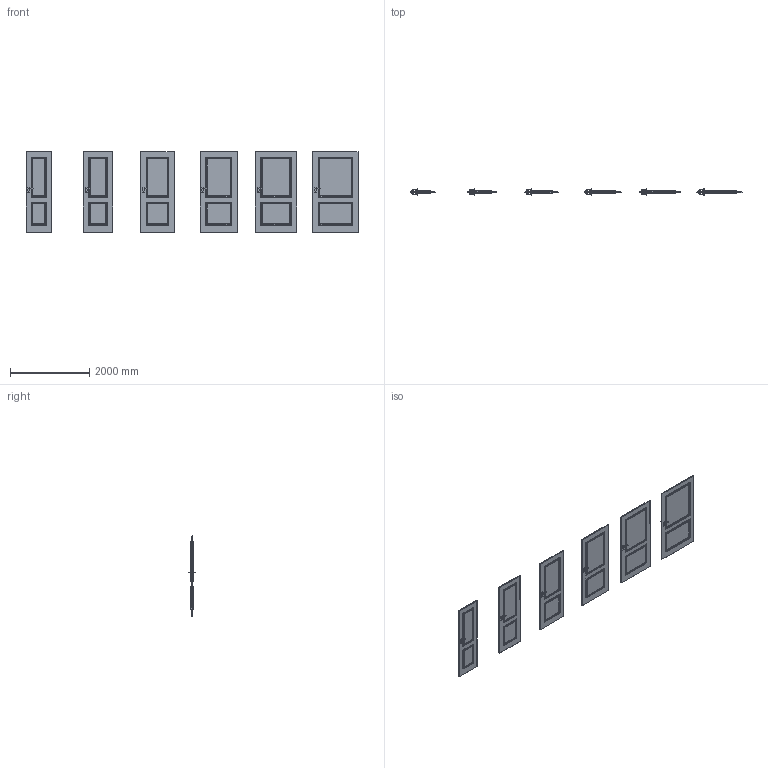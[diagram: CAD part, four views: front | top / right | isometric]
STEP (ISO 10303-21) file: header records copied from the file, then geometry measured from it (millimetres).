
FILE_DESCRIPTION(/* description */ (''),/* implementation_level */ '2;1');
FILE_NAME(/* name */ '049782_A_2-Skrzydło 4 Żywioły POWIETRZE model P.3_ polska norma _PN__ przylgowe..stp',/* time_stamp */ '2024-03-19T09:42:34+01:00',/* author */ (''),/* organization */ (''),/* preprocessor_version */ 'ST-DEVELOPER v16',/* originating_system */ 'SIEMENS PLM Software NX 11.0',/* authorisation */ '');
FILE_SCHEMA (('AUTOMOTIVE_DESIGN { 1 0 10303 214 3 1 1 1 }'));
Products named in the file (1): bkni0750A893l9dg
Bounding box: 8394 x 153.27 x 2030 mm (x, y, z)
Volume: 450127468.5 mm3; surface area: 39454443.6 mm2
Topology: 222 solids, 222 shells, 7272 faces, 19452 edges, 12504 vertices
Faces by surface type: bspline 3792, plane 3048, cylinder 264, sphere 168
Entity records: 292127 total; most frequent: CARTESIAN_POINT 141742, ORIENTED_EDGE 38568, DIRECTION 19896, EDGE_CURVE 19284, VERTEX_POINT 12504, LINE 10534, VECTOR 10534, EDGE_LOOP 7344
